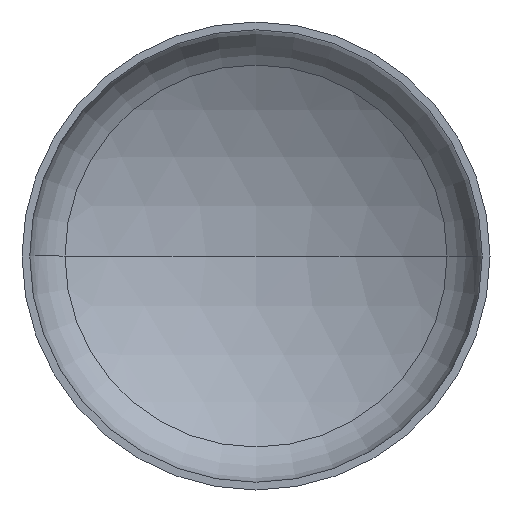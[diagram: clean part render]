
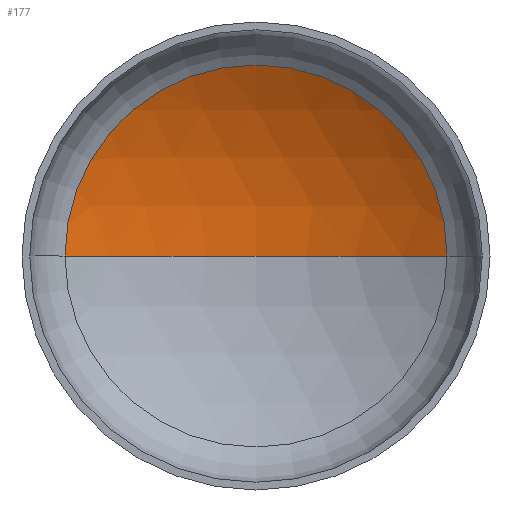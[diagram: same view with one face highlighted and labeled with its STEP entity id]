
A CAD part, front view. The second image highlights one B-rep face of the part: STEP entity #177.
In plain terms, the highlighted spherical face has radius 2080 mm.
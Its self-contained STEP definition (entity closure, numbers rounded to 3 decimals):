
#5 = DIRECTION ( 'NONE',  ( 1., 0., 0. ) ) ;
#9 = DIRECTION ( 'NONE',  ( 0., 0., 1. ) ) ;
#16 = AXIS2_PLACEMENT_3D ( 'NONE', #214, #137, #248 ) ;
#22 = AXIS2_PLACEMENT_3D ( 'NONE', #75, #9, #5 ) ;
#24 = AXIS2_PLACEMENT_3D ( 'NONE', #265, #83, #293 ) ;
#25 = AXIS2_PLACEMENT_3D ( 'NONE', #165, #167, #143 ) ;
#35 = CIRCLE ( 'NONE', #25, 1061.048 ) ;
#67 = EDGE_CURVE ( 'NONE', #197, #304, #35, .T. ) ;
#69 = EDGE_CURVE ( 'NONE', #95, #197, #363, .T. ) ;
#72 = EDGE_CURVE ( 'NONE', #95, #304, #206, .T. ) ;
#75 = CARTESIAN_POINT ( 'NONE',  ( 0., -1314.974, 0. ) ) ;
#83 = DIRECTION ( 'NONE',  ( 0., 0., -1. ) ) ;
#88 = CARTESIAN_POINT ( 'NONE',  ( -1061.048, 474.042, 0. ) ) ;
#90 = ORIENTED_EDGE ( 'NONE', *, *, #72, .F. ) ;
#95 = VERTEX_POINT ( 'NONE', #175 ) ;
#119 = FACE_OUTER_BOUND ( 'NONE', #282, .T. ) ;
#137 = DIRECTION ( 'NONE',  ( 0., 0., -1. ) ) ;
#143 = DIRECTION ( 'NONE',  ( 1., 0., 0. ) ) ;
#165 = CARTESIAN_POINT ( 'NONE',  ( 0., 474.042, 0. ) ) ;
#167 = DIRECTION ( 'NONE',  ( 0., -1., 0. ) ) ;
#175 = CARTESIAN_POINT ( 'NONE',  ( 0., 765.026, 0. ) ) ;
#177 = ADVANCED_FACE ( 'NONE', ( #119 ), #411, .F. ) ;
#197 = VERTEX_POINT ( 'NONE', #247 ) ;
#206 = CIRCLE ( 'NONE', #22, 2080. ) ;
#214 = CARTESIAN_POINT ( 'NONE',  ( 0., -1314.974, 0. ) ) ;
#247 = CARTESIAN_POINT ( 'NONE',  ( 1061.048, 474.042, 0. ) ) ;
#248 = DIRECTION ( 'NONE',  ( -1., 0., 0. ) ) ;
#265 = CARTESIAN_POINT ( 'NONE',  ( 0., -1314.974, 0. ) ) ;
#282 = EDGE_LOOP ( 'NONE', ( #90, #386, #403 ) ) ;
#293 = DIRECTION ( 'NONE',  ( -1., 0., 0. ) ) ;
#304 = VERTEX_POINT ( 'NONE', #88 ) ;
#363 = CIRCLE ( 'NONE', #24, 2080. ) ;
#386 = ORIENTED_EDGE ( 'NONE', *, *, #69, .T. ) ;
#403 = ORIENTED_EDGE ( 'NONE', *, *, #67, .T. ) ;
#411 = SPHERICAL_SURFACE ( 'NONE', #16, 2080. ) ;
